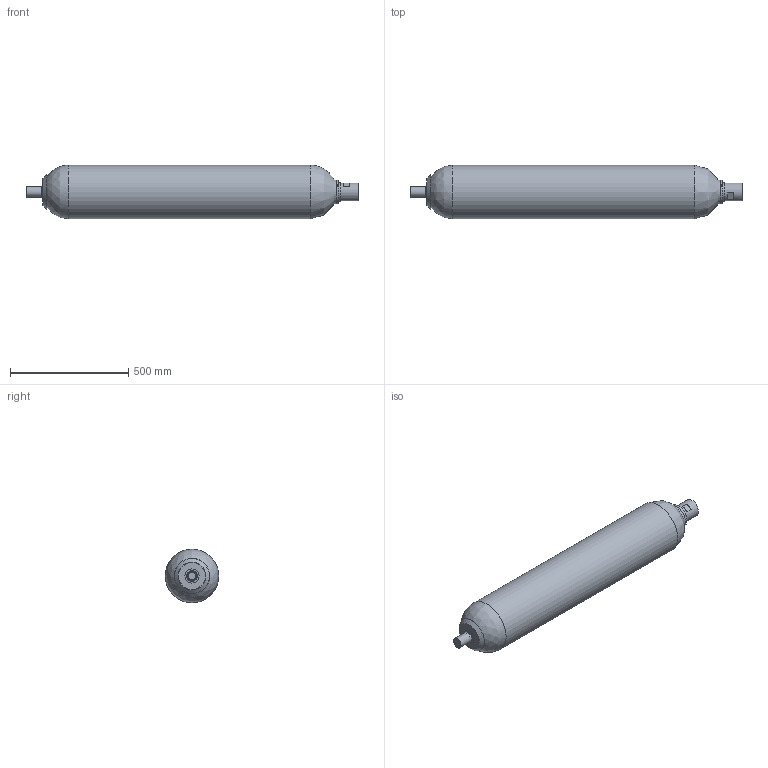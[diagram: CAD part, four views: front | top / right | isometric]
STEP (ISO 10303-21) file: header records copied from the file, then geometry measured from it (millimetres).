
FILE_DESCRIPTION(/* description */ (''),/* implementation_level */ '2;1');
FILE_NAME(/* name */ 'F:\STEP\ALLEGE\GAMME_EHV_STD_480bar\10950201125.stp',/* time_stamp */ '2014-04-15T11:05:14+02:00',/* author */ ('OB222728'),/* organization */ (''),/* preprocessor_version */ 'ST-DEVELOPER v15.2',/* originating_system */ 'Autodesk Inventor 2014',/* authorisation */ '');
FILE_SCHEMA (('AUTOMOTIVE_DESIGN { 1 0 10303 214 3 1 1 }'));
Length unit declared in the file: millimetre
Products named in the file (11): CA106387-00190; CB110082-02500; BE105544-00200; EC100990-00200; BC110298-02520OMAR; PF091202-05200; BP090944-00200 BOUCHON DE PROTECTION; BP090944-00200 BOUCHON PLASTIQUE; BP090944-00200; EC090943-01200; 10950201125
Bounding box: 1403.2 x 226.2 x 226.2 mm (x, y, z)
Volume: 10572175.5 mm3; surface area: 1818273.5 mm2
Topology: 8 solids, 8 shells, 138 faces, 311 edges, 197 vertices
Faces by surface type: plane 53, cylinder 40, cone 28, torus 12, bspline 3, sphere 2
Full cylindrical faces by diameter (mm): 12 x1, 15 x6, 18 x1, 20 x1, 20.68 x1, 22.52 x1, 31 x1, 34.5 x1, 36 x1, 36.5 x2, 38 x1, 45 x1, 54 x2, 56.656 x1, 60 x1, 76 x2, 76.835 x1, 79 x1, 80 x2, 88.4 x1, 88.9 x1, 88.95 x1, 101 x1, 202.4 x1, 226.2 x1
Entity records: 3733 total; most frequent: CARTESIAN_POINT 738, DIRECTION 648, ORIENTED_EDGE 440, AXIS2_PLACEMENT_3D 293, EDGE_LOOP 243, EDGE_CURVE 220, VERTEX_POINT 177, ADVANCED_FACE 138
